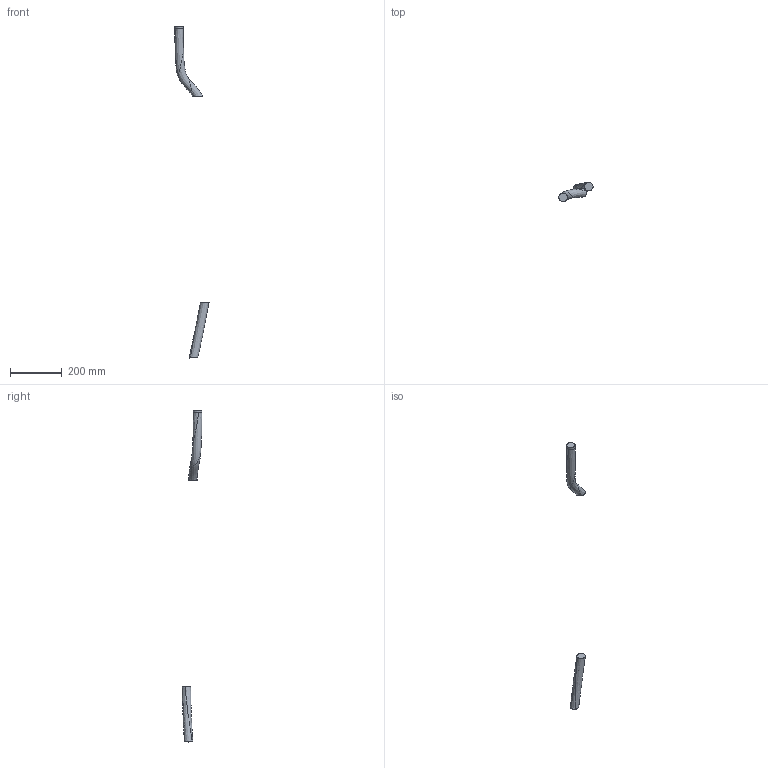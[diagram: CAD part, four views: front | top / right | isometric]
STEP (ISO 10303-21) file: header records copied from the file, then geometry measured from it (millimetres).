
FILE_DESCRIPTION (( 'STEP AP214' ), '1' );
FILE_NAME ('IRB77X0_All_OC_00_LINK2m_CABLE.STEP', '2023-10-02T08:53:01', ( '' ), ( '' ), 'SwSTEP 2.0', 'SolidWorks 2022', '' );
FILE_SCHEMA (( 'AUTOMOTIVE_DESIGN' ));
Length unit declared in the file: millimetre
Products named in the file (1): IRB77X0_All_OC_00_LINK2m_CABLE
Bounding box: 132.13 x 76 x 1284.77 mm (x, y, z)
Volume: 439482.1 mm3; surface area: 56910.9 mm2
Topology: 2 solids, 2 shells, 9 faces, 15 edges, 10 vertices
Faces by surface type: bspline 5, plane 4
Entity records: 2077 total; most frequent: CARTESIAN_POINT 1900, ORIENTED_EDGE 32, EDGE_CURVE 16, DIRECTION 14, VERTEX_POINT 12, B_SPLINE_CURVE_WITH_KNOTS 10, EDGE_LOOP 10, FACE_OUTER_BOUND 10
